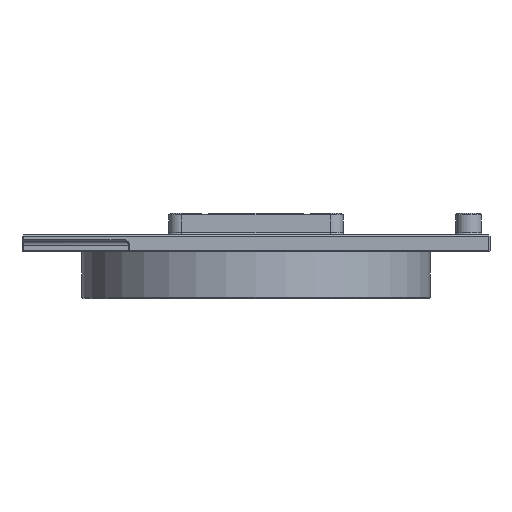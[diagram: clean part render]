
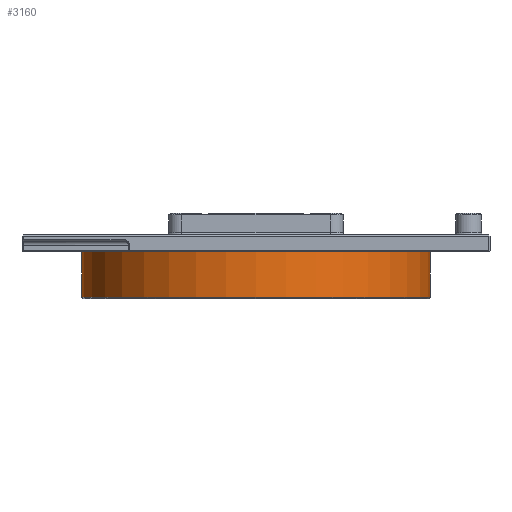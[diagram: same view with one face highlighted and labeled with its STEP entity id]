
A CAD part, front view. The second image highlights one B-rep face of the part: STEP entity #3160.
In plain terms, the highlighted cylindrical face has radius 41 mm (diameter 82 mm), a partial arc.
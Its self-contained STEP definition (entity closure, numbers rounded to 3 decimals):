
#303 = CARTESIAN_POINT ( 'NONE',  ( 41., 0., 0. ) ) ;
#532 = CIRCLE ( 'NONE', #3839, 41. ) ;
#806 = DIRECTION ( 'NONE',  ( -1., 0., 0. ) ) ;
#1045 = CARTESIAN_POINT ( 'NONE',  ( -41., 0., -11. ) ) ;
#1246 = DIRECTION ( 'NONE',  ( 0., 0., 1. ) ) ;
#1706 = EDGE_CURVE ( 'NONE', #3214, #2131, #532, .T. ) ;
#1714 = CYLINDRICAL_SURFACE ( 'NONE', #5568, 41. ) ;
#1826 = LINE ( 'NONE', #1045, #4376 ) ;
#1856 = VECTOR ( 'NONE', #2725, 1000. ) ;
#2073 = EDGE_CURVE ( 'NONE', #2953, #2482, #5552, .T. ) ;
#2131 = VERTEX_POINT ( 'NONE', #2636 ) ;
#2203 = EDGE_CURVE ( 'NONE', #2482, #3214, #4037, .T. ) ;
#2259 = CARTESIAN_POINT ( 'NONE',  ( 0., 0., 0. ) ) ;
#2482 = VERTEX_POINT ( 'NONE', #2802 ) ;
#2575 = CARTESIAN_POINT ( 'NONE',  ( 0., 0., -11. ) ) ;
#2636 = CARTESIAN_POINT ( 'NONE',  ( -41., 0., 0. ) ) ;
#2637 = DIRECTION ( 'NONE',  ( 1., 0., 0. ) ) ;
#2669 = DIRECTION ( 'NONE',  ( 1., 0., 0. ) ) ;
#2725 = DIRECTION ( 'NONE',  ( 0., 0., 1. ) ) ;
#2802 = CARTESIAN_POINT ( 'NONE',  ( 41., 0., -10.7 ) ) ;
#2953 = VERTEX_POINT ( 'NONE', #4615 ) ;
#2962 = CARTESIAN_POINT ( 'NONE',  ( 0., 0., -10.7 ) ) ;
#3160 = ADVANCED_FACE ( 'NONE', ( #4818 ), #1714, .T. ) ;
#3214 = VERTEX_POINT ( 'NONE', #303 ) ;
#3463 = AXIS2_PLACEMENT_3D ( 'NONE', #2962, #1246, #806 ) ;
#3476 = DIRECTION ( 'NONE',  ( 0., 0., 1. ) ) ;
#3839 = AXIS2_PLACEMENT_3D ( 'NONE', #2259, #4460, #2669 ) ;
#4006 = ORIENTED_EDGE ( 'NONE', *, *, #1706, .T. ) ;
#4037 = LINE ( 'NONE', #5850, #1856 ) ;
#4376 = VECTOR ( 'NONE', #4601, 1000. ) ;
#4460 = DIRECTION ( 'NONE',  ( 0., 0., -1. ) ) ;
#4493 = ORIENTED_EDGE ( 'NONE', *, *, #2203, .T. ) ;
#4601 = DIRECTION ( 'NONE',  ( 0., 0., 1. ) ) ;
#4615 = CARTESIAN_POINT ( 'NONE',  ( -41., 0., -10.7 ) ) ;
#4648 = ORIENTED_EDGE ( 'NONE', *, *, #5772, .F. ) ;
#4818 = FACE_OUTER_BOUND ( 'NONE', #4832, .T. ) ;
#4832 = EDGE_LOOP ( 'NONE', ( #4648, #5386, #4493, #4006 ) ) ;
#5386 = ORIENTED_EDGE ( 'NONE', *, *, #2073, .T. ) ;
#5552 = CIRCLE ( 'NONE', #3463, 41. ) ;
#5568 = AXIS2_PLACEMENT_3D ( 'NONE', #2575, #3476, #2637 ) ;
#5772 = EDGE_CURVE ( 'NONE', #2953, #2131, #1826, .T. ) ;
#5850 = CARTESIAN_POINT ( 'NONE',  ( 41., 0., -11. ) ) ;
